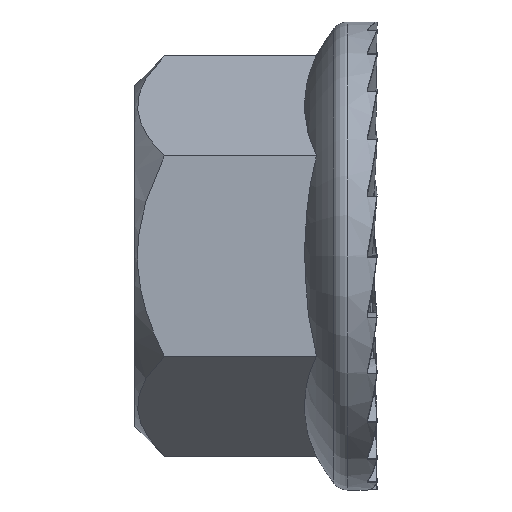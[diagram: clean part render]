
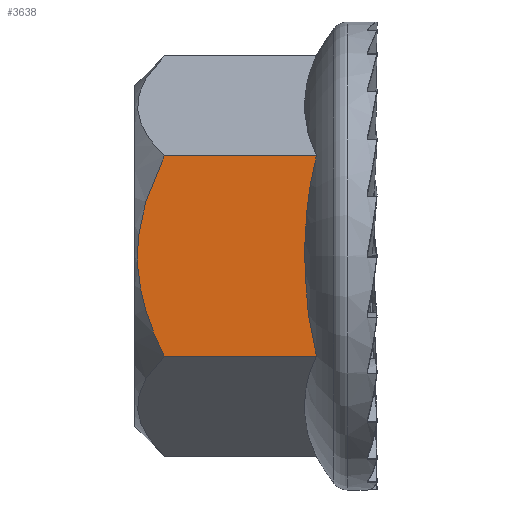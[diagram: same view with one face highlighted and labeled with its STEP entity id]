
A CAD part, left-side view. The second image highlights one B-rep face of the part: STEP entity #3638.
In plain terms, the highlighted planar face has unit normal (-1, 0, 0).
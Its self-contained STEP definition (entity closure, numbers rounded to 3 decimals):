
#28 = ORIENTED_EDGE ( 'NONE', *, *, #10665, .F. ) ;
#42 = CARTESIAN_POINT ( 'NONE',  ( -5., 6.27, -1.967 ) ) ;
#104 = DIRECTION ( 'NONE',  ( 1., 0., 0. ) ) ;
#123 = LINE ( 'NONE', #1115, #437 ) ;
#434 = CARTESIAN_POINT ( 'NONE',  ( -5., 1.8, -0.493 ) ) ;
#437 = VECTOR ( 'NONE', #10276, 1000. ) ;
#486 = CARTESIAN_POINT ( 'NONE',  ( -5., 1.672, -1.936 ) ) ;
#547 = EDGE_LOOP ( 'NONE', ( #1060, #7484, #5431, #28 ) ) ;
#942 = CARTESIAN_POINT ( 'NONE',  ( -5., 6.7, -2.887 ) ) ;
#1060 = ORIENTED_EDGE ( 'NONE', *, *, #4669, .F. ) ;
#1115 = CARTESIAN_POINT ( 'NONE',  ( -5., 6.7, -2.887 ) ) ;
#1155 = CARTESIAN_POINT ( 'NONE',  ( -5., 1.777, 0.965 ) ) ;
#1291 = VECTOR ( 'NONE', #7046, 1000. ) ;
#1310 = CARTESIAN_POINT ( 'NONE',  ( -5., 1.672, 1.938 ) ) ;
#1452 = VERTEX_POINT ( 'NONE', #5923 ) ;
#1575 = B_SPLINE_CURVE_WITH_KNOTS ( 'NONE', 3,
 ( #4289, #10145, #8316, #6674, #5103, #1645, #10023, #4111, #9911, #4990, #10798, #42, #2517, #5865 ),
 .UNSPECIFIED., .F., .F.,
 ( 4, 2, 2, 2, 2, 2, 4 ),
 ( 0.007, 0.008, 0.009, 0.01, 0.011, 0.012, 0.013 ),
 .UNSPECIFIED. ) ;
#1645 = CARTESIAN_POINT ( 'NONE',  ( -5., 6.545, 1.003 ) ) ;
#2517 = CARTESIAN_POINT ( 'NONE',  ( -5., 6.074, -2.438 ) ) ;
#2627 = EDGE_CURVE ( 'NONE', #4230, #1452, #1575, .T. ) ;
#3487 = CARTESIAN_POINT ( 'NONE',  ( -5., 5.85, 2.887 ) ) ;
#3638 = ADVANCED_FACE ( 'NONE', ( #9256 ), #8417, .F. ) ;
#3891 = AXIS2_PLACEMENT_3D ( 'NONE', #942, #104, #6788 ) ;
#4111 = CARTESIAN_POINT ( 'NONE',  ( -5., 6.624, -0.249 ) ) ;
#4230 = VERTEX_POINT ( 'NONE', #3487 ) ;
#4289 = CARTESIAN_POINT ( 'NONE',  ( -5., 5.85, 2.887 ) ) ;
#4602 = CARTESIAN_POINT ( 'NONE',  ( -5., 1.8, 0.476 ) ) ;
#4655 = CARTESIAN_POINT ( 'NONE',  ( -5., 1.776, -0.975 ) ) ;
#4669 = EDGE_CURVE ( 'NONE', #4230, #5669, #6994, .T. ) ;
#4990 = CARTESIAN_POINT ( 'NONE',  ( -5., 6.53, -1. ) ) ;
#5103 = CARTESIAN_POINT ( 'NONE',  ( -5., 6.338, 1.728 ) ) ;
#5431 = ORIENTED_EDGE ( 'NONE', *, *, #7152, .T. ) ;
#5669 = VERTEX_POINT ( 'NONE', #9695 ) ;
#5782 = VERTEX_POINT ( 'NONE', #6181 ) ;
#5865 = CARTESIAN_POINT ( 'NONE',  ( -5., 5.85, -2.887 ) ) ;
#5923 = CARTESIAN_POINT ( 'NONE',  ( -5., 5.85, -2.887 ) ) ;
#5935 = B_SPLINE_CURVE_WITH_KNOTS ( 'NONE', 3,
 ( #8743, #8643, #1310, #1155, #4602, #434, #4655, #486, #9048, #6329 ),
 .UNSPECIFIED., .F., .F.,
 ( 4, 2, 2, 2, 4 ),
 ( 0.009, 0.01, 0.012, 0.013, 0.015 ),
 .UNSPECIFIED. ) ;
#6181 = CARTESIAN_POINT ( 'NONE',  ( -5., 1.465, -2.887 ) ) ;
#6329 = CARTESIAN_POINT ( 'NONE',  ( -5., 1.465, -2.887 ) ) ;
#6674 = CARTESIAN_POINT ( 'NONE',  ( -5., 6.254, 1.968 ) ) ;
#6788 = DIRECTION ( 'NONE',  ( 0., 0., -1. ) ) ;
#6994 = LINE ( 'NONE', #7759, #1291 ) ;
#7046 = DIRECTION ( 'NONE',  ( 0., -1., 0. ) ) ;
#7152 = EDGE_CURVE ( 'NONE', #1452, #5782, #123, .T. ) ;
#7484 = ORIENTED_EDGE ( 'NONE', *, *, #2627, .T. ) ;
#7759 = CARTESIAN_POINT ( 'NONE',  ( -5., 6.7, 2.887 ) ) ;
#8316 = CARTESIAN_POINT ( 'NONE',  ( -5., 6.066, 2.436 ) ) ;
#8417 = PLANE ( 'NONE',  #3891 ) ;
#8643 = CARTESIAN_POINT ( 'NONE',  ( -5., 1.589, 2.417 ) ) ;
#8743 = CARTESIAN_POINT ( 'NONE',  ( -5., 1.465, 2.887 ) ) ;
#9048 = CARTESIAN_POINT ( 'NONE',  ( -5., 1.59, -2.413 ) ) ;
#9256 = FACE_OUTER_BOUND ( 'NONE', #547, .T. ) ;
#9695 = CARTESIAN_POINT ( 'NONE',  ( -5., 1.465, 2.887 ) ) ;
#9911 = CARTESIAN_POINT ( 'NONE',  ( -5., 6.604, -0.504 ) ) ;
#10023 = CARTESIAN_POINT ( 'NONE',  ( -5., 6.623, 0.51 ) ) ;
#10145 = CARTESIAN_POINT ( 'NONE',  ( -5., 5.962, 2.663 ) ) ;
#10276 = DIRECTION ( 'NONE',  ( 0., -1., 0. ) ) ;
#10665 = EDGE_CURVE ( 'NONE', #5669, #5782, #5935, .T. ) ;
#10798 = CARTESIAN_POINT ( 'NONE',  ( -5., 6.476, -1.244 ) ) ;
